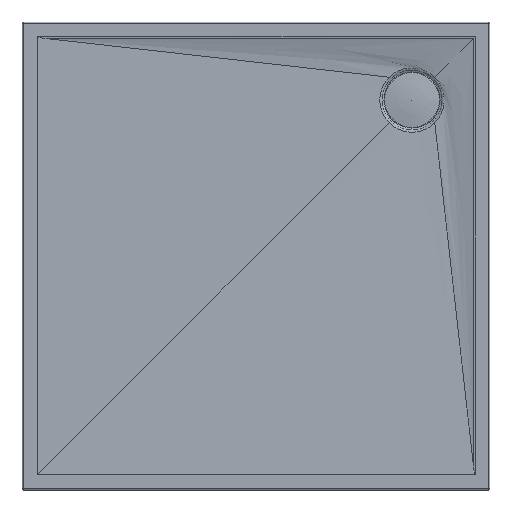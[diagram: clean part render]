
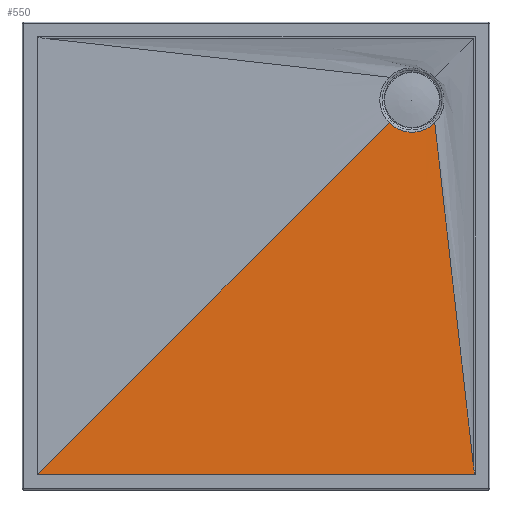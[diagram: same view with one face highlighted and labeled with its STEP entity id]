
A CAD part, top view. The second image highlights one B-rep face of the part: STEP entity #550.
In plain terms, the highlighted free-form (B-spline) face has degree [3, 3] with [7, 4] control points.
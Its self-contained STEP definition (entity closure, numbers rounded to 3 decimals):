
#17=B_SPLINE_CURVE_WITH_KNOTS('',3,(#987,#988,#989,#990,#991,#992,#993,
#994),.UNSPECIFIED.,.F.,.F.,(4,2,2,4),(-0.96,-0.203,
-0.085,-0.051),.UNSPECIFIED.);
#24=B_SPLINE_CURVE_WITH_KNOTS('',3,(#1073,#1074,#1075,#1076),
 .UNSPECIFIED.,.F.,.F.,(4,4),(0.,0.15),
 .UNSPECIFIED.);
#25=B_SPLINE_CURVE_WITH_KNOTS('',3,(#1078,#1079,#1080,#1081),
 .UNSPECIFIED.,.F.,.F.,(4,4),(0.,83.975),
 .UNSPECIFIED.);
#35=B_SPLINE_SURFACE_WITH_KNOTS('',3,3,((#1153,#1154,#1155,#1156),(#1157,
#1158,#1159,#1160),(#1161,#1162,#1163,#1164),(#1165,#1166,#1167,#1168),
(#1169,#1170,#1171,#1172),(#1173,#1174,#1175,#1176),(#1177,#1178,#1179,
#1180)),.UNSPECIFIED.,.F.,.F.,.F.,(4,1,1,1,4),(4,4),(-0.002,
0.284,0.571,0.857,1.),(0.,1.),
 .UNSPECIFIED.);
#63=LINE('',#1147,#90);
#65=LINE('',#1182,#92);
#90=VECTOR('',#743,956.461);
#92=VECTOR('',#749,680.686);
#138=FACE_OUTER_BOUND('',#174,.T.);
#174=EDGE_LOOP('',(#458,#459,#460,#461,#462,#463));
#215=CIRCLE('',#621,61.89);
#258=VERTEX_POINT('',#976);
#259=VERTEX_POINT('',#986);
#264=VERTEX_POINT('',#1072);
#265=VERTEX_POINT('',#1077);
#267=VERTEX_POINT('',#1146);
#270=VERTEX_POINT('',#1181);
#323=EDGE_CURVE('',#258,#259,#17,.T.);
#330=EDGE_CURVE('',#264,#259,#24,.T.);
#331=EDGE_CURVE('',#264,#265,#25,.T.);
#336=EDGE_CURVE('',#267,#265,#63,.T.);
#340=EDGE_CURVE('',#270,#258,#65,.T.);
#341=EDGE_CURVE('',#270,#267,#215,.T.);
#458=ORIENTED_EDGE('',*,*,#331,.F.);
#459=ORIENTED_EDGE('',*,*,#330,.T.);
#460=ORIENTED_EDGE('',*,*,#323,.F.);
#461=ORIENTED_EDGE('',*,*,#340,.F.);
#462=ORIENTED_EDGE('',*,*,#341,.T.);
#463=ORIENTED_EDGE('',*,*,#336,.T.);
#550=ADVANCED_FACE('',(#138),#35,.T.);
#621=AXIS2_PLACEMENT_3D('',#1183,#750,#751);
#743=DIRECTION('',(-0.707,-0.707,0.016));
#749=DIRECTION('',(0.112,-0.993,0.022));
#750=DIRECTION('center_axis',(0.,0.,-1.));
#751=DIRECTION('ref_axis',(-1.,0.,0.));
#976=CARTESIAN_POINT('',(7244.855,2383.852,29.718));
#986=CARTESIAN_POINT('',(7248.174,2367.69,30.076));
#987=CARTESIAN_POINT('Ctrl Pts',(7244.855,2383.852,29.718));
#988=CARTESIAN_POINT('Ctrl Pts',(7245.549,2377.7,29.854));
#989=CARTESIAN_POINT('Ctrl Pts',(7246.403,2371.92,29.983));
#990=CARTESIAN_POINT('Ctrl Pts',(7247.551,2368.731,30.053));
#991=CARTESIAN_POINT('Ctrl Pts',(7247.738,2368.291,30.063));
#992=CARTESIAN_POINT('Ctrl Pts',(7248.017,2367.871,30.072));
#993=CARTESIAN_POINT('Ctrl Pts',(7248.091,2367.773,30.075));
#994=CARTESIAN_POINT('Ctrl Pts',(7248.174,2367.69,30.076));
#1072=CARTESIAN_POINT('',(7246.677,2367.69,30.076));
#1073=CARTESIAN_POINT('Ctrl Pts',(7246.677,2367.69,30.076));
#1074=CARTESIAN_POINT('Ctrl Pts',(7247.176,2367.69,30.076));
#1075=CARTESIAN_POINT('Ctrl Pts',(7247.675,2367.69,30.076));
#1076=CARTESIAN_POINT('Ctrl Pts',(7248.174,2367.69,30.076));
#1077=CARTESIAN_POINT('',(6406.924,2367.69,30.076));
#1078=CARTESIAN_POINT('Ctrl Pts',(7246.677,2367.69,30.076));
#1079=CARTESIAN_POINT('Ctrl Pts',(6966.76,2367.698,30.076));
#1080=CARTESIAN_POINT('Ctrl Pts',(6686.842,2367.698,30.076));
#1081=CARTESIAN_POINT('Ctrl Pts',(6406.924,2367.69,30.076));
#1146=CARTESIAN_POINT('',(7082.939,3043.706,15.081));
#1147=CARTESIAN_POINT('',(7082.939,3043.706,15.081));
#1153=CARTESIAN_POINT('Ctrl Pts',(7170.587,3043.828,15.081));
#1154=CARTESIAN_POINT('Ctrl Pts',(7196.45,2818.449,20.08));
#1155=CARTESIAN_POINT('Ctrl Pts',(7222.312,2593.07,25.078));
#1156=CARTESIAN_POINT('Ctrl Pts',(7248.174,2367.69,30.076));
#1157=CARTESIAN_POINT('Ctrl Pts',(7164.047,3037.252,15.081));
#1158=CARTESIAN_POINT('Ctrl Pts',(7165.381,2814.065,20.08));
#1159=CARTESIAN_POINT('Ctrl Pts',(7166.722,2590.875,25.078));
#1160=CARTESIAN_POINT('Ctrl Pts',(7168.056,2367.688,30.076));
#1161=CARTESIAN_POINT('Ctrl Pts',(7147.964,3027.094,15.081));
#1162=CARTESIAN_POINT('Ctrl Pts',(7101.248,2807.292,20.08));
#1163=CARTESIAN_POINT('Ctrl Pts',(7054.533,2587.487,25.078));
#1164=CARTESIAN_POINT('Ctrl Pts',(7007.818,2367.685,30.076));
#1165=CARTESIAN_POINT('Ctrl Pts',(7119.608,3023.847,15.081));
#1166=CARTESIAN_POINT('Ctrl Pts',(7002.224,2805.126,20.08));
#1167=CARTESIAN_POINT('Ctrl Pts',(6884.844,2586.405,25.078));
#1168=CARTESIAN_POINT('Ctrl Pts',(6767.46,2367.684,30.076));
#1169=CARTESIAN_POINT('Ctrl Pts',(7097.159,3031.686,15.081));
#1170=CARTESIAN_POINT('Ctrl Pts',(6920.494,2810.354,20.08));
#1171=CARTESIAN_POINT('Ctrl Pts',(6743.826,2589.019,25.078));
#1172=CARTESIAN_POINT('Ctrl Pts',(6567.161,2367.686,30.076));
#1173=CARTESIAN_POINT('Ctrl Pts',(7086.219,3040.426,15.081));
#1174=CARTESIAN_POINT('Ctrl Pts',(6873.139,2816.179,20.08));
#1175=CARTESIAN_POINT('Ctrl Pts',(6660.063,2591.937,25.078));
#1176=CARTESIAN_POINT('Ctrl Pts',(6446.983,2367.689,30.076));
#1177=CARTESIAN_POINT('Ctrl Pts',(7082.939,3043.706,15.081));
#1178=CARTESIAN_POINT('Ctrl Pts',(6857.601,2818.367,20.08));
#1179=CARTESIAN_POINT('Ctrl Pts',(6632.262,2593.029,25.078));
#1180=CARTESIAN_POINT('Ctrl Pts',(6406.924,2367.69,30.076));
#1181=CARTESIAN_POINT('',(7170.465,3043.706,15.081));
#1182=CARTESIAN_POINT('',(7170.465,3043.706,15.081));
#1183=CARTESIAN_POINT('Origin',(7126.702,3087.469,15.081));
